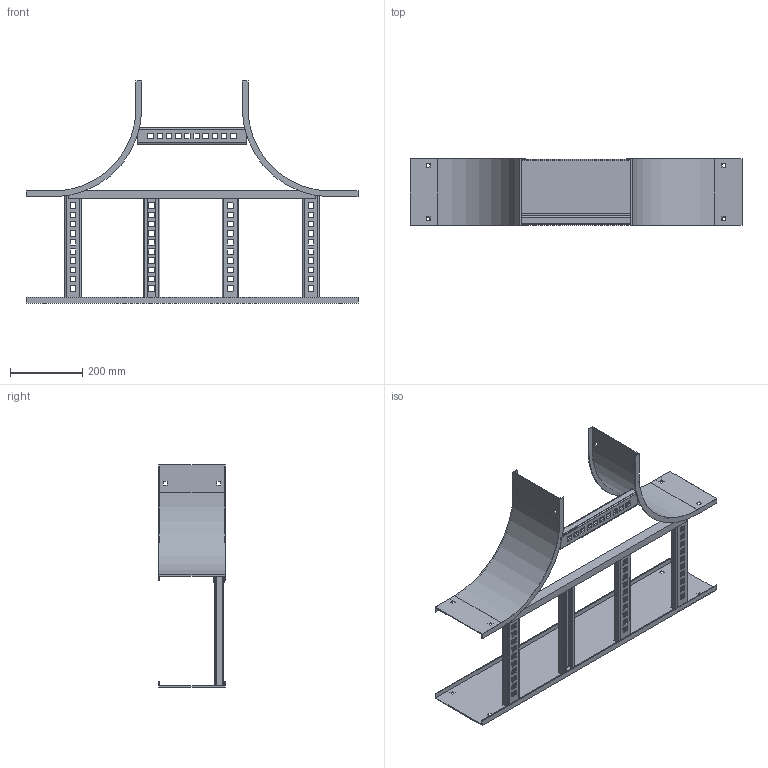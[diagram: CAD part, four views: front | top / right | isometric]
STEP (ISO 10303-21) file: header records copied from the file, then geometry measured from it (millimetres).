
FILE_DESCRIPTION((''),'2;1');
FILE_NAME('AUF712LHT12_ASM','2010-01-27T',('erouzier'),(''),'PRO/ENGINEER BY PARAMETRIC TECHNOLOGY CORPORATION, 2008510','PRO/ENGINEER BY PARAMETRIC TECHNOLOGY CORPORATION, 2008510','');
FILE_SCHEMA(('CONFIG_CONTROL_DESIGN'));
Length unit declared in the file: inch
Products named in the file (9): CDS001322-7-90-9-I; CDS013844-7-36; CDS000495_GEN_AF7; CDS002159L12-P_AF34; CDS002159L12-P_AF35; CDS002159L12-P_AF36; CDS002159L12-P_AF37; CDS002159L12-P_AF33; AUF712LHT12_ASM
Assembly tree (9 placements, depth 2):
  AUF712LHT12_ASM
    CDS001322-7-90-9-I  x2
    CDS013844-7-36
    CDS000495_GEN_AF7
    CDS002159L12-P_AF34
    CDS002159L12-P_AF35
    CDS002159L12-P_AF36
    CDS002159L12-P_AF37
    CDS002159L12-P_AF33
Bounding box: 919.99 x 183.9 x 615.19 mm (x, y, z)
Volume: 1453110.9 mm3; surface area: 1267302.3 mm2
Topology: 9 solids, 9 shells, 654 faces, 1908 edges, 1272 vertices
Faces by surface type: plane 391, cylinder 263
Entity records: 21083 total; most frequent: CARTESIAN_POINT 3658, ORIENTED_EDGE 3624, DIRECTION 3606, EDGE_CURVE 1812, VECTOR 1294, LINE 1294, VERTEX_POINT 1208, AXIS2_PLACEMENT_3D 1156
